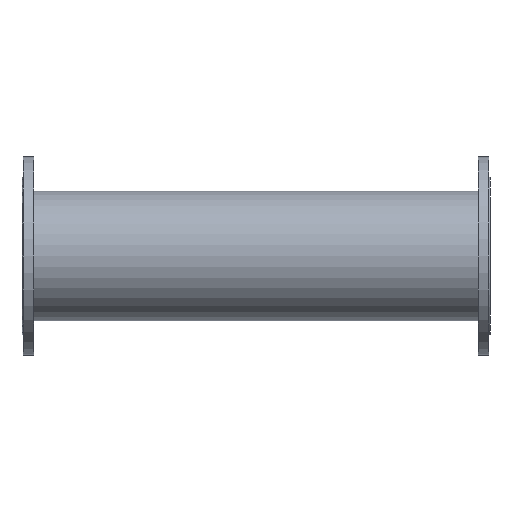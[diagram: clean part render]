
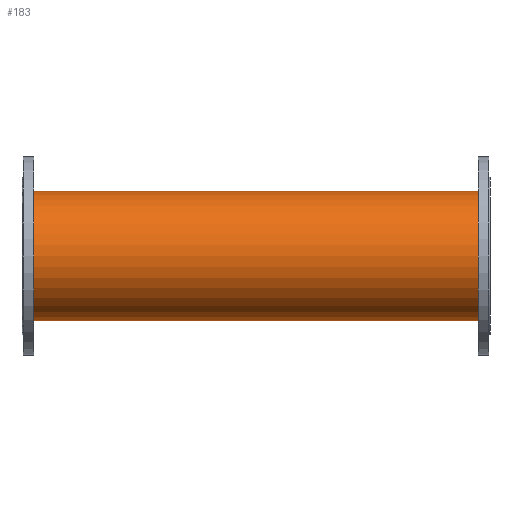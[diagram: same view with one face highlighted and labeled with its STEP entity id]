
A CAD part, front view. The second image highlights one B-rep face of the part: STEP entity #183.
In plain terms, the highlighted cylindrical face has radius 111 mm (diameter 222 mm), a partial arc.
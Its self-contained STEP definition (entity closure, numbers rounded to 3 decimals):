
#183=ADVANCED_FACE('',(#411),#412,.T.);
#411=FACE_OUTER_BOUND('',#738,.T.);
#412=CYLINDRICAL_SURFACE('',#739,111.0);
#738=EDGE_LOOP('',(#1140,#1141,#1142,#1143));
#739=AXIS2_PLACEMENT_3D('',#1144,#1145,#1146);
#1140=ORIENTED_EDGE('',*,*,#1788,.T.);
#1141=ORIENTED_EDGE('',*,*,#1690,.T.);
#1142=ORIENTED_EDGE('',*,*,#1789,.T.);
#1143=ORIENTED_EDGE('',*,*,#1768,.T.);
#1144=CARTESIAN_POINT('',(10.0,0.0,0.));
#1145=DIRECTION('',(1.0,0.0,0.));
#1146=DIRECTION('',(0.,0.0,-1.0));
#1690=EDGE_CURVE('',#1979,#1980,#1981,.T.);
#1768=EDGE_CURVE('',#2113,#2112,#2115,.T.);
#1788=EDGE_CURVE('',#2112,#1979,#2145,.T.);
#1789=EDGE_CURVE('',#1980,#2113,#2146,.T.);
#1979=VERTEX_POINT('',#2402);
#1980=VERTEX_POINT('',#2403);
#1981=CIRCLE('',#2404,111.0);
#2112=VERTEX_POINT('',#2561);
#2113=VERTEX_POINT('',#2562);
#2115=CIRCLE('',#2564,111.0);
#2145=LINE('',#2594,#2595);
#2146=LINE('',#2596,#2597);
#2402=CARTESIAN_POINT('',(790.0,0.0,-111.0));
#2403=CARTESIAN_POINT('',(790.0,0.,111.0));
#2404=AXIS2_PLACEMENT_3D('',#2894,#2895,#2896);
#2561=CARTESIAN_POINT('',(10.0,0.0,-111.0));
#2562=CARTESIAN_POINT('',(10.,0.,111.0));
#2564=AXIS2_PLACEMENT_3D('',#3025,#3026,#3027);
#2594=CARTESIAN_POINT('',(10.0,0.,-111.0));
#2595=VECTOR('',#3079,1.0);
#2596=CARTESIAN_POINT('',(10.,0.,111.0));
#2597=VECTOR('',#3080,1.0);
#2894=CARTESIAN_POINT('',(790.0,0.0,0.));
#2895=DIRECTION('',(-1.0,-0.0,0.));
#2896=DIRECTION('',(0.,0.0,-1.0));
#3025=CARTESIAN_POINT('',(10.0,0.0,0.));
#3026=DIRECTION('',(1.0,0.0,0.));
#3027=DIRECTION('',(0.,0.0,-1.0));
#3079=DIRECTION('',(1.0,0.0,0.));
#3080=DIRECTION('',(-1.0,-0.0,0.));
